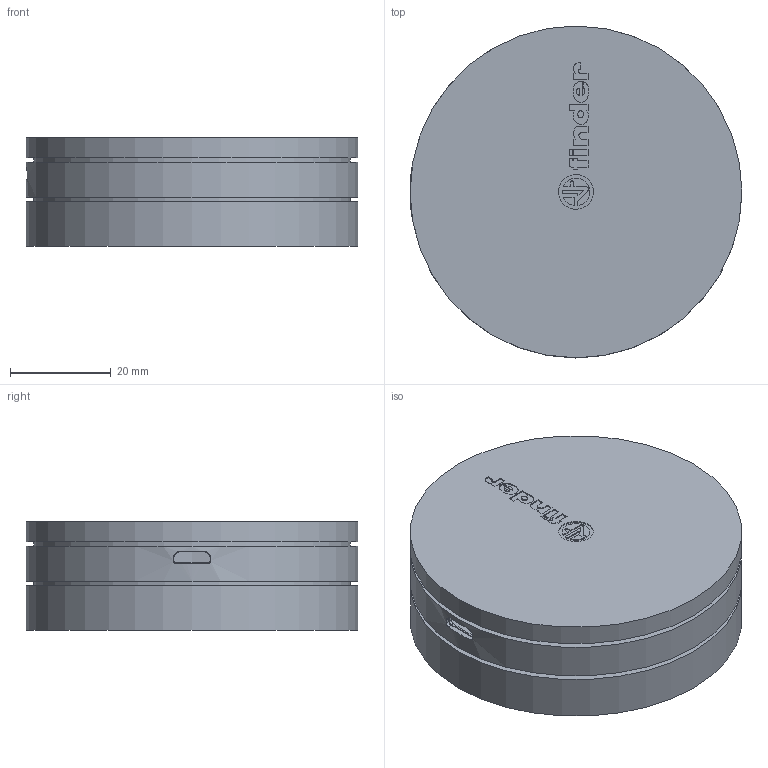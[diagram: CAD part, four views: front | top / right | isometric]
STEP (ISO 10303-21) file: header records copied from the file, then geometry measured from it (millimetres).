
FILE_DESCRIPTION(/* description */ ('Unknown'),/* implementation_level */ '2;1');
FILE_NAME(/* name */ '1YGU 005',/* time_stamp */ '2019-05-29T10:16:35+02:00',/* author */ ('Unknown'),/* organization */ ('Unknown'),/* preprocessor_version */ 'ST-DEVELOPER v16.7',/* originating_system */ 'DEX',/* authorisation */ $);
FILE_SCHEMA (('AUTOMOTIVE_DESIGN {1 0 10303 214 3 1 1}'));
Length unit declared in the file: millimetre
Products named in the file (1): 1YGU 005
Bounding box: 66 x 66 x 21.65 mm (x, y, z)
Surface area: 13725.9 mm2 (no closed solid volume)
Topology: 0 solids, 5 shells, 142 faces, 396 edges, 278 vertices
Faces by surface type: plane 88, cylinder 50, cone 4
Full cylindrical faces by diameter (mm): 6.9 x1, 63 x2, 66 x3
Entity records: 4573 total; most frequent: CARTESIAN_POINT 840, DIRECTION 776, ORIENTED_EDGE 703, EDGE_CURVE 381, VERTEX_POINT 274, AXIS2_PLACEMENT_3D 266, LINE 244, VECTOR 244
